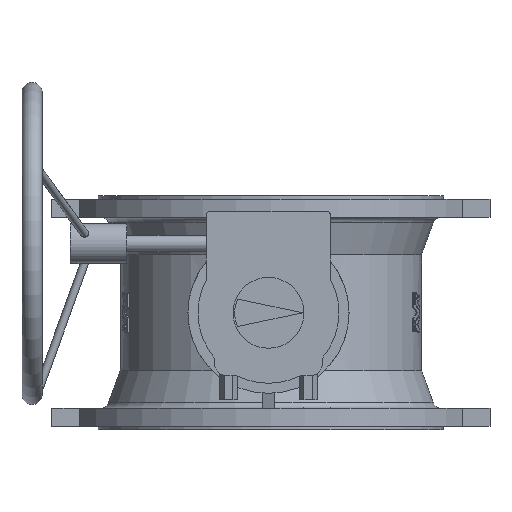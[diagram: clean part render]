
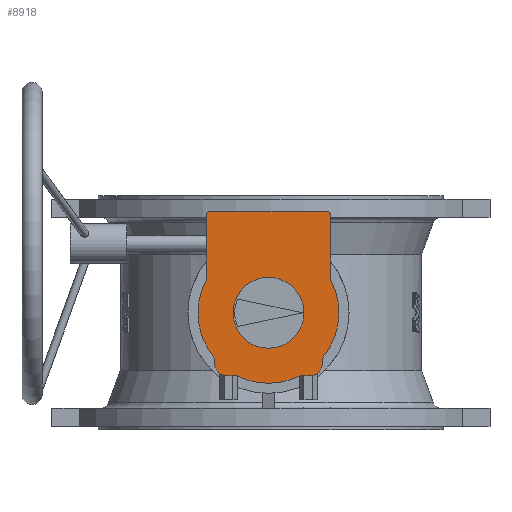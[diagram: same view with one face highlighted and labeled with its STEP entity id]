
A CAD part, left-side view. The second image highlights one B-rep face of the part: STEP entity #8918.
In plain terms, the highlighted planar face has unit normal (-1, 0, 0).
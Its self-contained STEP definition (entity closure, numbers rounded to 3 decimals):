
#491 = EDGE_LOOP ( 'NONE', ( #1356, #1340, #1353, #1357, #1348, #1341, #1352, #1344, #1345, #1349, #1339, #1337, #1347, #1343 ) ) ;
#492 = EDGE_LOOP ( 'NONE', ( #1350 ) ) ;
#1337 = ORIENTED_EDGE ( 'NONE', *, *, #8211, .T. ) ;
#1339 = ORIENTED_EDGE ( 'NONE', *, *, #11463, .T. ) ;
#1340 = ORIENTED_EDGE ( 'NONE', *, *, #8170, .T. ) ;
#1341 = ORIENTED_EDGE ( 'NONE', *, *, #11444, .T. ) ;
#1343 = ORIENTED_EDGE ( 'NONE', *, *, #8174, .T. ) ;
#1344 = ORIENTED_EDGE ( 'NONE', *, *, #8213, .T. ) ;
#1345 = ORIENTED_EDGE ( 'NONE', *, *, #8136, .T. ) ;
#1347 = ORIENTED_EDGE ( 'NONE', *, *, #11440, .T. ) ;
#1348 = ORIENTED_EDGE ( 'NONE', *, *, #8145, .T. ) ;
#1349 = ORIENTED_EDGE ( 'NONE', *, *, #8302, .T. ) ;
#1350 = ORIENTED_EDGE ( 'NONE', *, *, #8235, .F. ) ;
#1352 = ORIENTED_EDGE ( 'NONE', *, *, #11482, .T. ) ;
#1353 = ORIENTED_EDGE ( 'NONE', *, *, #11443, .T. ) ;
#1356 = ORIENTED_EDGE ( 'NONE', *, *, #8225, .T. ) ;
#1357 = ORIENTED_EDGE ( 'NONE', *, *, #8179, .T. ) ;
#1501 = LINE ( 'NONE', #6644, #1505 ) ;
#1505 = VECTOR ( 'NONE', #7749, 1000. ) ;
#1513 = LINE ( 'NONE', #7732, #1519 ) ;
#1519 = VECTOR ( 'NONE', #7729, 1000. ) ;
#1551 = CIRCLE ( 'NONE', #5287, 5. ) ;
#1554 = CIRCLE ( 'NONE', #5341, 5. ) ;
#1565 = CIRCLE ( 'NONE', #5282, 87.5 ) ;
#1601 = CIRCLE ( 'NONE', #5304, 87.5 ) ;
#1604 = CIRCLE ( 'NONE', #5306, 87.5 ) ;
#1614 = VECTOR ( 'NONE', #7407, 1000. ) ;
#1617 = LINE ( 'NONE', #7414, #1614 ) ;
#1630 = CIRCLE ( 'NONE', #5332, 44. ) ;
#1714 = CIRCLE ( 'NONE', #5407, 15. ) ;
#1893 = FACE_OUTER_BOUND ( 'NONE', #491, .T. ) ;
#1906 = FACE_BOUND ( 'NONE', #492, .T. ) ;
#2155 = DIRECTION ( 'NONE',  ( 0., -1., 0. ) ) ;
#2167 = CARTESIAN_POINT ( 'NONE',  ( -372., 39.652, -78. ) ) ;
#2234 = DIRECTION ( 'NONE',  ( 0., 0., 1. ) ) ;
#2251 = CARTESIAN_POINT ( 'NONE',  ( -372., -67., -56.278 ) ) ;
#2316 = DIRECTION ( 'NONE',  ( 0., 0., 1. ) ) ;
#2317 = DIRECTION ( 'NONE',  ( -1., 0., 0. ) ) ;
#2318 = CARTESIAN_POINT ( 'NONE',  ( -372., 52., -63. ) ) ;
#2321 = DIRECTION ( 'NONE',  ( 0., 0., -1. ) ) ;
#2322 = CARTESIAN_POINT ( 'NONE',  ( -372., 77., 41.56 ) ) ;
#2327 = DIRECTION ( 'NONE',  ( 0., 0., 1. ) ) ;
#2328 = CARTESIAN_POINT ( 'NONE',  ( -372., -77., 41.56 ) ) ;
#2691 = VERTEX_POINT ( 'NONE', #8690 ) ;
#3462 = CARTESIAN_POINT ( 'NONE',  ( -372., -72., 126. ) ) ;
#3467 = CARTESIAN_POINT ( 'NONE',  ( -372., -52., -78. ) ) ;
#3521 = CARTESIAN_POINT ( 'NONE',  ( -372., 72., 126. ) ) ;
#3574 = CARTESIAN_POINT ( 'NONE',  ( -372., -67., -63. ) ) ;
#3580 = CARTESIAN_POINT ( 'NONE',  ( -372., 67., -56.278 ) ) ;
#3592 = CARTESIAN_POINT ( 'NONE',  ( -372., 39.652, -78. ) ) ;
#3603 = CARTESIAN_POINT ( 'NONE',  ( -372., 77., 41.56 ) ) ;
#3613 = CARTESIAN_POINT ( 'NONE',  ( -372., -67., -56.278 ) ) ;
#3634 = CARTESIAN_POINT ( 'NONE',  ( -372., -77., 41.56 ) ) ;
#3736 = CARTESIAN_POINT ( 'NONE',  ( -372., -77., 121. ) ) ;
#3744 = CARTESIAN_POINT ( 'NONE',  ( -372., 52., -78. ) ) ;
#3751 = CARTESIAN_POINT ( 'NONE',  ( -372., 67., -63. ) ) ;
#3822 = CARTESIAN_POINT ( 'NONE',  ( -372., 77., 121. ) ) ;
#4444 = LINE ( 'NONE', #2328, #4447 ) ;
#4447 = VECTOR ( 'NONE', #2327, 1000. ) ;
#4450 = LINE ( 'NONE', #2322, #4453 ) ;
#4452 = CIRCLE ( 'NONE', #9697, 15. ) ;
#4453 = VECTOR ( 'NONE', #2321, 1000. ) ;
#4465 = LINE ( 'NONE', #2251, #4466 ) ;
#4466 = VECTOR ( 'NONE', #2234, 1000. ) ;
#4488 = LINE ( 'NONE', #2167, #4491 ) ;
#4491 = VECTOR ( 'NONE', #2155, 1000. ) ;
#5282 = AXIS2_PLACEMENT_3D ( 'NONE', #7611, #7610, #7609 ) ;
#5287 = AXIS2_PLACEMENT_3D ( 'NONE', #7645, #7644, #7643 ) ;
#5304 = AXIS2_PLACEMENT_3D ( 'NONE', #7514, #7513, #7512 ) ;
#5306 = AXIS2_PLACEMENT_3D ( 'NONE', #7508, #7507, #7506 ) ;
#5332 = AXIS2_PLACEMENT_3D ( 'NONE', #7373, #7372, #7371 ) ;
#5339 = AXIS2_PLACEMENT_3D ( 'NONE', #9290, #9284, #9283 ) ;
#5341 = AXIS2_PLACEMENT_3D ( 'NONE', #7633, #7632, #7631 ) ;
#5407 = AXIS2_PLACEMENT_3D ( 'NONE', #7090, #7089, #7088 ) ;
#6644 = CARTESIAN_POINT ( 'NONE',  ( -372., -67., -78. ) ) ;
#7088 = DIRECTION ( 'NONE',  ( 0., 0., 1. ) ) ;
#7089 = DIRECTION ( 'NONE',  ( -1., 0., 0. ) ) ;
#7090 = CARTESIAN_POINT ( 'NONE',  ( -372., -52., -63. ) ) ;
#7371 = DIRECTION ( 'NONE',  ( 0., 0., 1. ) ) ;
#7372 = DIRECTION ( 'NONE',  ( -1., 0., 0. ) ) ;
#7373 = CARTESIAN_POINT ( 'NONE',  ( -372., 0., 0. ) ) ;
#7407 = DIRECTION ( 'NONE',  ( 0., 1., 0. ) ) ;
#7414 = CARTESIAN_POINT ( 'NONE',  ( -372., -77., 126. ) ) ;
#7506 = DIRECTION ( 'NONE',  ( 0., 0., 1. ) ) ;
#7507 = DIRECTION ( 'NONE',  ( -1., 0., 0. ) ) ;
#7508 = CARTESIAN_POINT ( 'NONE',  ( -372., 0., 0. ) ) ;
#7512 = DIRECTION ( 'NONE',  ( 0., 0., 1. ) ) ;
#7513 = DIRECTION ( 'NONE',  ( -1., 0., 0. ) ) ;
#7514 = CARTESIAN_POINT ( 'NONE',  ( -372., 0., 0. ) ) ;
#7609 = DIRECTION ( 'NONE',  ( 0., 0., 1. ) ) ;
#7610 = DIRECTION ( 'NONE',  ( -1., 0., 0. ) ) ;
#7611 = CARTESIAN_POINT ( 'NONE',  ( -372., 0., 0. ) ) ;
#7631 = DIRECTION ( 'NONE',  ( 0., 0., 1. ) ) ;
#7632 = DIRECTION ( 'NONE',  ( -1., 0., 0. ) ) ;
#7633 = CARTESIAN_POINT ( 'NONE',  ( -372., -72., 121. ) ) ;
#7643 = DIRECTION ( 'NONE',  ( 0., 0., 1. ) ) ;
#7644 = DIRECTION ( 'NONE',  ( -1., 0., 0. ) ) ;
#7645 = CARTESIAN_POINT ( 'NONE',  ( -372., 72., 121. ) ) ;
#7729 = DIRECTION ( 'NONE',  ( 0., 0., -1. ) ) ;
#7732 = CARTESIAN_POINT ( 'NONE',  ( -372., 67., -56.278 ) ) ;
#7749 = DIRECTION ( 'NONE',  ( 0., -1., 0. ) ) ;
#8136 = EDGE_CURVE ( 'NONE', #2691, #12173, #1501, .T. ) ;
#8145 = EDGE_CURVE ( 'NONE', #12286, #12457, #1513, .T. ) ;
#8170 = EDGE_CURVE ( 'NONE', #12227, #12528, #1551, .T. ) ;
#8174 = EDGE_CURVE ( 'NONE', #12442, #12168, #1554, .T. ) ;
#8179 = EDGE_CURVE ( 'NONE', #12309, #12286, #1565, .T. ) ;
#8211 = EDGE_CURVE ( 'NONE', #12319, #12340, #1601, .T. ) ;
#8213 = EDGE_CURVE ( 'NONE', #12298, #2691, #1604, .T. ) ;
#8225 = EDGE_CURVE ( 'NONE', #12168, #12227, #1617, .T. ) ;
#8235 = EDGE_CURVE ( 'NONE', #11298, #11298, #1630, .T. ) ;
#8302 = EDGE_CURVE ( 'NONE', #12173, #12280, #1714, .T. ) ;
#8690 = CARTESIAN_POINT ( 'NONE',  ( -372., -39.652, -78. ) ) ;
#8918 = ADVANCED_FACE ( 'NONE', ( #1893, #1906 ), #9289, .T. ) ;
#9283 = DIRECTION ( 'NONE',  ( 0., 0., 1. ) ) ;
#9284 = DIRECTION ( 'NONE',  ( -1., 0., 0. ) ) ;
#9289 = PLANE ( 'NONE',  #5339 ) ;
#9290 = CARTESIAN_POINT ( 'NONE',  ( -372., 0., 0. ) ) ;
#9697 = AXIS2_PLACEMENT_3D ( 'NONE', #2318, #2317, #2316 ) ;
#11185 = CARTESIAN_POINT ( 'NONE',  ( -372., 0., 44. ) ) ;
#11298 = VERTEX_POINT ( 'NONE', #11185 ) ;
#11440 = EDGE_CURVE ( 'NONE', #12340, #12442, #4444, .T. ) ;
#11443 = EDGE_CURVE ( 'NONE', #12528, #12309, #4450, .T. ) ;
#11444 = EDGE_CURVE ( 'NONE', #12457, #12450, #4452, .T. ) ;
#11463 = EDGE_CURVE ( 'NONE', #12280, #12319, #4465, .T. ) ;
#11482 = EDGE_CURVE ( 'NONE', #12450, #12298, #4488, .T. ) ;
#12168 = VERTEX_POINT ( 'NONE', #3462 ) ;
#12173 = VERTEX_POINT ( 'NONE', #3467 ) ;
#12227 = VERTEX_POINT ( 'NONE', #3521 ) ;
#12280 = VERTEX_POINT ( 'NONE', #3574 ) ;
#12286 = VERTEX_POINT ( 'NONE', #3580 ) ;
#12298 = VERTEX_POINT ( 'NONE', #3592 ) ;
#12309 = VERTEX_POINT ( 'NONE', #3603 ) ;
#12319 = VERTEX_POINT ( 'NONE', #3613 ) ;
#12340 = VERTEX_POINT ( 'NONE', #3634 ) ;
#12442 = VERTEX_POINT ( 'NONE', #3736 ) ;
#12450 = VERTEX_POINT ( 'NONE', #3744 ) ;
#12457 = VERTEX_POINT ( 'NONE', #3751 ) ;
#12528 = VERTEX_POINT ( 'NONE', #3822 ) ;
